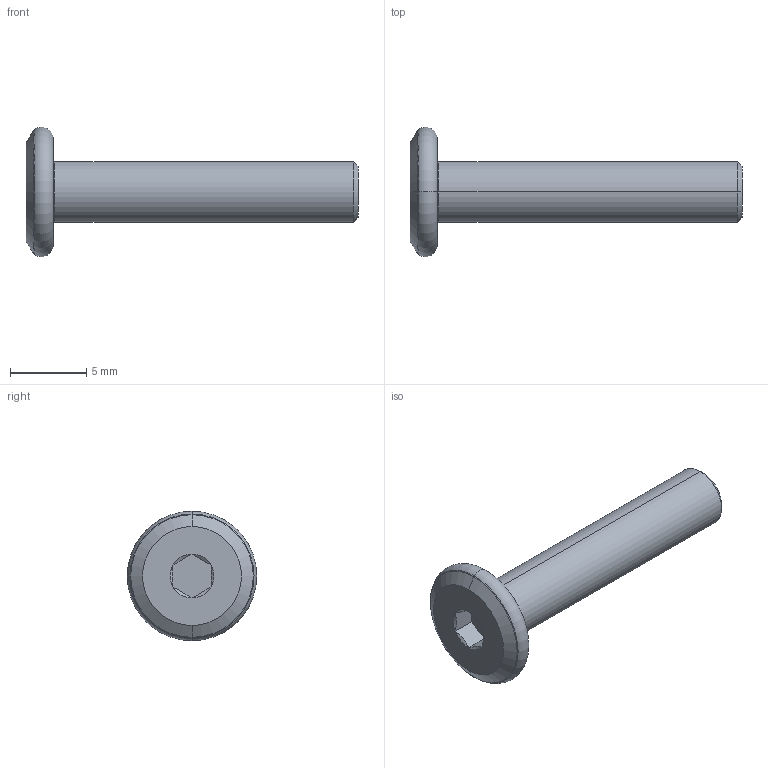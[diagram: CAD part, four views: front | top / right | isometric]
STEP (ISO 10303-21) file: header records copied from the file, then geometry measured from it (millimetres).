
FILE_DESCRIPTION (( 'STEP AP203' ), '1' );
FILE_NAME ('LGD-304D-M4x20.STEP', '2026-08-13T04:45:38', ( '' ), ( '' ), 'SwSTEP 2.0', 'SolidWorks 2020', '' );
FILE_SCHEMA (( 'CONFIG_CONTROL_DESIGN' ));
Length unit declared in the file: millimetre
Products named in the file (1): LGD-304D-M4x20
Bounding box: 21.8 x 8.5 x 8.5 mm (x, y, z)
Volume: 333.2 mm3; surface area: 399.1 mm2
Topology: 1 solids, 1 shells, 28 faces, 52 edges, 28 vertices
Faces by surface type: cone 10, plane 10, torus 6, cylinder 2
Entity records: 791 total; most frequent: CARTESIAN_POINT 151, DIRECTION 132, ORIENTED_EDGE 104, AXIS2_PLACEMENT_3D 57, EDGE_CURVE 52, EDGE_LOOP 30, CIRCLE 28, ADVANCED_FACE 28
